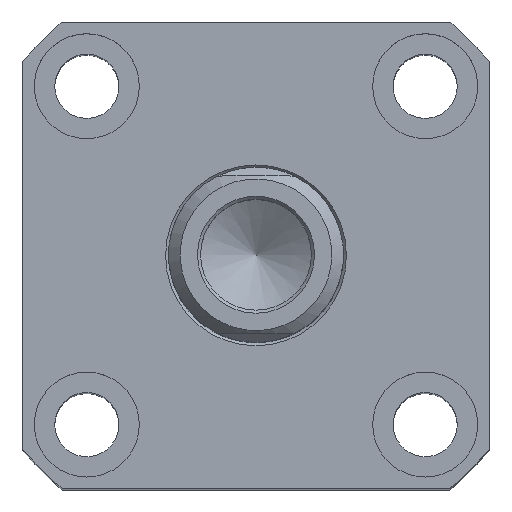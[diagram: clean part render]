
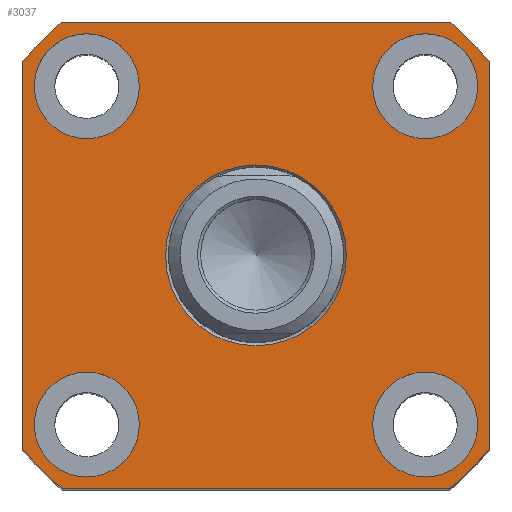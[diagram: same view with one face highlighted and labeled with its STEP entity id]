
A CAD part, top view. The second image highlights one B-rep face of the part: STEP entity #3037.
In plain terms, the highlighted planar face has unit normal (0, 0, 1).
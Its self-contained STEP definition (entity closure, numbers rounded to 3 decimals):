
#3037=ADVANCED_FACE('',(#3757,#3758,#3759,#3760,#3761,#3762),#3434,.T.);
#3434=PLANE('',#10277);
#3757=FACE_BOUND('',#4011,.T.);
#3758=FACE_BOUND('',#4012,.T.);
#3759=FACE_BOUND('',#4013,.T.);
#3760=FACE_BOUND('',#4014,.T.);
#3761=FACE_BOUND('',#4015,.T.);
#3762=FACE_BOUND('',#4016,.T.);
#4011=EDGE_LOOP('',(#6147));
#4012=EDGE_LOOP('',(#6148));
#4013=EDGE_LOOP('',(#6149));
#4014=EDGE_LOOP('',(#6150));
#4015=EDGE_LOOP('',(#6151));
#4016=EDGE_LOOP('',(#6152,#6153,#6154,#6155,#6156,#6157,#6158,#6159));
#4515=LINE('',#12392,#5228);
#4522=LINE('',#13055,#5235);
#4526=LINE('',#13067,#5239);
#4529=LINE('',#13079,#5242);
#5228=VECTOR('',#10665,1.);
#5235=VECTOR('',#10824,1.);
#5239=VECTOR('',#10836,1.);
#5242=VECTOR('',#10853,1.);
#6147=ORIENTED_EDGE('',*,*,#8989,.T.);
#6148=ORIENTED_EDGE('',*,*,#9052,.F.);
#6149=ORIENTED_EDGE('',*,*,#9054,.F.);
#6150=ORIENTED_EDGE('',*,*,#9056,.F.);
#6151=ORIENTED_EDGE('',*,*,#9058,.F.);
#6152=ORIENTED_EDGE('',*,*,#9078,.T.);
#6153=ORIENTED_EDGE('',*,*,#9082,.T.);
#6154=ORIENTED_EDGE('',*,*,#9085,.T.);
#6155=ORIENTED_EDGE('',*,*,#9088,.T.);
#6156=ORIENTED_EDGE('',*,*,#9090,.T.);
#6157=ORIENTED_EDGE('',*,*,#8987,.T.);
#6158=ORIENTED_EDGE('',*,*,#9093,.T.);
#6159=ORIENTED_EDGE('',*,*,#9095,.T.);
#8197=VERTEX_POINT('',#12391);
#8198=VERTEX_POINT('',#12393);
#8199=VERTEX_POINT('',#12397);
#8262=VERTEX_POINT('',#12983);
#8264=VERTEX_POINT('',#12988);
#8266=VERTEX_POINT('',#12993);
#8268=VERTEX_POINT('',#12998);
#8288=VERTEX_POINT('',#13046);
#8289=VERTEX_POINT('',#13048);
#8291=VERTEX_POINT('',#13054);
#8293=VERTEX_POINT('',#13060);
#8295=VERTEX_POINT('',#13066);
#8297=VERTEX_POINT('',#13075);
#8987=EDGE_CURVE('',#8198,#8197,#4515,.T.);
#8989=EDGE_CURVE('',#8199,#8199,#10068,.T.);
#9052=EDGE_CURVE('',#8262,#8262,#10091,.T.);
#9054=EDGE_CURVE('',#8264,#8264,#10093,.T.);
#9056=EDGE_CURVE('',#8266,#8266,#10095,.T.);
#9058=EDGE_CURVE('',#8268,#8268,#10097,.T.);
#9078=EDGE_CURVE('',#8289,#8288,#10116,.T.);
#9082=EDGE_CURVE('',#8288,#8291,#4522,.T.);
#9085=EDGE_CURVE('',#8291,#8293,#10118,.T.);
#9088=EDGE_CURVE('',#8293,#8295,#4526,.T.);
#9090=EDGE_CURVE('',#8295,#8198,#10120,.T.);
#9093=EDGE_CURVE('',#8197,#8297,#10122,.T.);
#9095=EDGE_CURVE('',#8297,#8289,#4529,.T.);
#10068=CIRCLE('',#10190,15.5);
#10091=CIRCLE('',#10226,9.);
#10093=CIRCLE('',#10229,9.);
#10095=CIRCLE('',#10232,9.);
#10097=CIRCLE('',#10235,9.);
#10116=CIRCLE('',#10263,52.);
#10118=CIRCLE('',#10267,52.);
#10120=CIRCLE('',#10271,52.);
#10122=CIRCLE('',#10274,52.);
#10190=AXIS2_PLACEMENT_3D('',#12396,#10669,#10670);
#10226=AXIS2_PLACEMENT_3D('',#12982,#10742,#10743);
#10229=AXIS2_PLACEMENT_3D('',#12987,#10748,#10749);
#10232=AXIS2_PLACEMENT_3D('',#12992,#10754,#10755);
#10235=AXIS2_PLACEMENT_3D('',#12997,#10760,#10761);
#10263=AXIS2_PLACEMENT_3D('',#13047,#10817,#10818);
#10267=AXIS2_PLACEMENT_3D('',#13061,#10830,#10831);
#10271=AXIS2_PLACEMENT_3D('',#13070,#10841,#10842);
#10274=AXIS2_PLACEMENT_3D('',#13076,#10848,#10849);
#10277=AXIS2_PLACEMENT_3D('',#13081,#10856,#10857);
#10665=DIRECTION('',(0.,1.,0.));
#10669=DIRECTION('',(0.,0.,-1.));
#10670=DIRECTION('',(1.,0.,0.));
#10742=DIRECTION('',(0.,0.,1.));
#10743=DIRECTION('',(1.,0.,0.));
#10748=DIRECTION('',(0.,0.,1.));
#10749=DIRECTION('',(1.,0.,0.));
#10754=DIRECTION('',(0.,0.,1.));
#10755=DIRECTION('',(1.,0.,0.));
#10760=DIRECTION('',(0.,0.,1.));
#10761=DIRECTION('',(1.,0.,0.));
#10817=DIRECTION('',(0.,0.,1.));
#10818=DIRECTION('',(1.,0.,0.));
#10824=DIRECTION('',(0.,-1.,0.));
#10830=DIRECTION('',(0.,0.,1.));
#10831=DIRECTION('',(1.,0.,0.));
#10836=DIRECTION('',(1.,0.,0.));
#10841=DIRECTION('',(0.,0.,1.));
#10842=DIRECTION('',(1.,0.,0.));
#10848=DIRECTION('',(0.,0.,1.));
#10849=DIRECTION('',(1.,0.,0.));
#10853=DIRECTION('',(-1.,0.,0.));
#10856=DIRECTION('',(0.,0.,1.));
#10857=DIRECTION('',(-1.,0.,0.));
#12391=CARTESIAN_POINT('',(40.,33.226,62.5));
#12392=CARTESIAN_POINT('',(40.,33.226,62.5));
#12393=CARTESIAN_POINT('',(40.,-33.226,62.5));
#12396=CARTESIAN_POINT('',(0.,0.,62.5));
#12397=CARTESIAN_POINT('',(15.5,0.,62.5));
#12982=CARTESIAN_POINT('',(29.,-29.,62.5));
#12983=CARTESIAN_POINT('',(38.,-29.,62.5));
#12987=CARTESIAN_POINT('',(-29.,-29.,62.5));
#12988=CARTESIAN_POINT('',(-20.,-29.,62.5));
#12992=CARTESIAN_POINT('',(-29.,29.,62.5));
#12993=CARTESIAN_POINT('',(-20.,29.,62.5));
#12997=CARTESIAN_POINT('',(29.,29.,62.5));
#12998=CARTESIAN_POINT('',(38.,29.,62.5));
#13046=CARTESIAN_POINT('',(-40.,33.226,62.5));
#13047=CARTESIAN_POINT('',(0.,0.,62.5));
#13048=CARTESIAN_POINT('',(-33.226,40.,62.5));
#13054=CARTESIAN_POINT('',(-40.,-33.226,62.5));
#13055=CARTESIAN_POINT('',(-40.,33.226,62.5));
#13060=CARTESIAN_POINT('',(-33.226,-40.,62.5));
#13061=CARTESIAN_POINT('',(0.,0.,62.5));
#13066=CARTESIAN_POINT('',(33.226,-40.,62.5));
#13067=CARTESIAN_POINT('',(-33.226,-40.,62.5));
#13070=CARTESIAN_POINT('',(0.,0.,62.5));
#13075=CARTESIAN_POINT('',(33.226,40.,62.5));
#13076=CARTESIAN_POINT('',(0.,0.,62.5));
#13079=CARTESIAN_POINT('',(-33.226,40.,62.5));
#13081=CARTESIAN_POINT('',(0.,0.,62.5));
